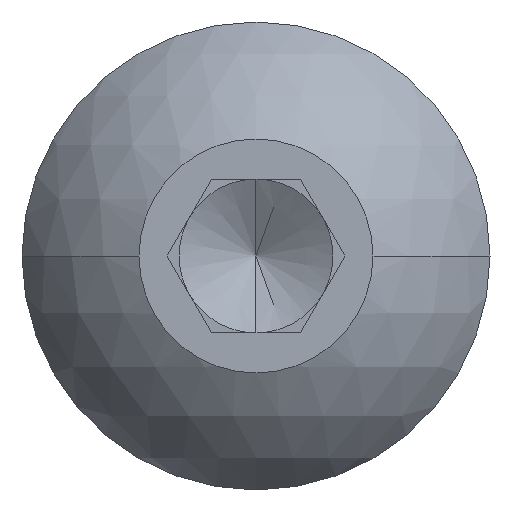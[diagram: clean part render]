
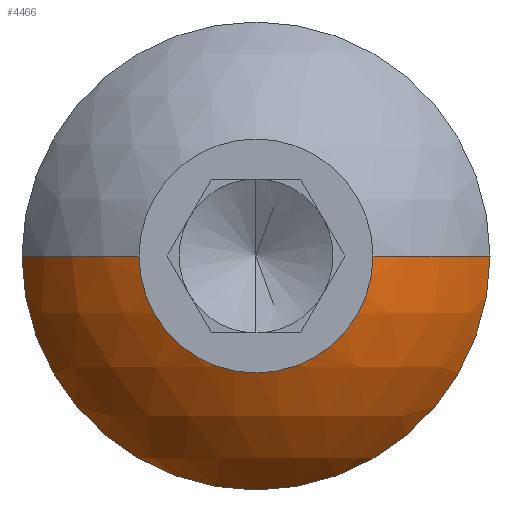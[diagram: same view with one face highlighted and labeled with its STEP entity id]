
A CAD part, left-side view. The second image highlights one B-rep face of the part: STEP entity #4466.
In plain terms, the highlighted spherical face has radius 4.325 mm.
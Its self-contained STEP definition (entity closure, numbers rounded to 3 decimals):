
#24 = VERTEX_POINT ( 'NONE', #4837 ) ;
#55 = DIRECTION ( 'NONE',  ( 0., 0., 1. ) ) ;
#82 = EDGE_CURVE ( 'NONE', #198, #4093, #4881, .T. ) ;
#166 = CARTESIAN_POINT ( 'NONE',  ( 3.885, 0., 0. ) ) ;
#198 = VERTEX_POINT ( 'NONE', #4211 ) ;
#238 = DIRECTION ( 'NONE',  ( 0., 1., 0. ) ) ;
#250 = ORIENTED_EDGE ( 'NONE', *, *, #82, .T. ) ;
#450 = ORIENTED_EDGE ( 'NONE', *, *, #2614, .F. ) ;
#532 = CARTESIAN_POINT ( 'NONE',  ( 1.82, 0., -3.8 ) ) ;
#779 = VERTEX_POINT ( 'NONE', #793 ) ;
#785 = DIRECTION ( 'NONE',  ( 0., 0., -1. ) ) ;
#793 = CARTESIAN_POINT ( 'NONE',  ( 0., 1.9, 0. ) ) ;
#814 = DIRECTION ( 'NONE',  ( 0., 0., 1. ) ) ;
#918 = EDGE_CURVE ( 'NONE', #24, #1818, #3172, .T. ) ;
#1214 = EDGE_LOOP ( 'NONE', ( #4438, #1928, #250, #3735, #450 ) ) ;
#1252 = CARTESIAN_POINT ( 'NONE',  ( 1.82, 0., 0. ) ) ;
#1379 = FACE_OUTER_BOUND ( 'NONE', #1214, .T. ) ;
#1388 = EDGE_CURVE ( 'NONE', #779, #4093, #3399, .T. ) ;
#1396 = AXIS2_PLACEMENT_3D ( 'NONE', #1582, #1655, #55 ) ;
#1491 = AXIS2_PLACEMENT_3D ( 'NONE', #1914, #785, #2680 ) ;
#1543 = CARTESIAN_POINT ( 'NONE',  ( 1.82, 0., 0. ) ) ;
#1582 = CARTESIAN_POINT ( 'NONE',  ( 0., 0., 0. ) ) ;
#1590 = DIRECTION ( 'NONE',  ( -1., 0., 0. ) ) ;
#1655 = DIRECTION ( 'NONE',  ( -1., 0., 0. ) ) ;
#1818 = VERTEX_POINT ( 'NONE', #532 ) ;
#1914 = CARTESIAN_POINT ( 'NONE',  ( 3.885, 0., 0. ) ) ;
#1928 = ORIENTED_EDGE ( 'NONE', *, *, #2976, .T. ) ;
#2043 = AXIS2_PLACEMENT_3D ( 'NONE', #3368, #4486, #2990 ) ;
#2264 = SPHERICAL_SURFACE ( 'NONE', #1491, 4.325 ) ;
#2415 = DIRECTION ( 'NONE',  ( -1., 0., 0. ) ) ;
#2614 = EDGE_CURVE ( 'NONE', #24, #779, #4451, .T. ) ;
#2680 = DIRECTION ( 'NONE',  ( 0., 1., 0. ) ) ;
#2976 = EDGE_CURVE ( 'NONE', #1818, #198, #4373, .T. ) ;
#2990 = DIRECTION ( 'NONE',  ( 1., 0., 0. ) ) ;
#3172 = CIRCLE ( 'NONE', #3588, 3.8 ) ;
#3255 = AXIS2_PLACEMENT_3D ( 'NONE', #166, #4082, #238 ) ;
#3322 = CARTESIAN_POINT ( 'NONE',  ( 0., -1.9, 0. ) ) ;
#3368 = CARTESIAN_POINT ( 'NONE',  ( 3.885, 0., 0. ) ) ;
#3399 = CIRCLE ( 'NONE', #1396, 1.9 ) ;
#3565 = DIRECTION ( 'NONE',  ( 0., 0., 1. ) ) ;
#3588 = AXIS2_PLACEMENT_3D ( 'NONE', #1252, #2415, #3565 ) ;
#3735 = ORIENTED_EDGE ( 'NONE', *, *, #1388, .F. ) ;
#4082 = DIRECTION ( 'NONE',  ( 0., 0., -1. ) ) ;
#4093 = VERTEX_POINT ( 'NONE', #3322 ) ;
#4211 = CARTESIAN_POINT ( 'NONE',  ( 1.82, -3.8, 0. ) ) ;
#4373 = CIRCLE ( 'NONE', #4540, 3.8 ) ;
#4438 = ORIENTED_EDGE ( 'NONE', *, *, #918, .T. ) ;
#4451 = CIRCLE ( 'NONE', #2043, 4.325 ) ;
#4466 = ADVANCED_FACE ( 'NONE', ( #1379 ), #2264, .T. ) ;
#4486 = DIRECTION ( 'NONE',  ( 0., 0., 1. ) ) ;
#4540 = AXIS2_PLACEMENT_3D ( 'NONE', #1543, #1590, #814 ) ;
#4837 = CARTESIAN_POINT ( 'NONE',  ( 1.82, 3.8, 0. ) ) ;
#4881 = CIRCLE ( 'NONE', #3255, 4.325 ) ;
